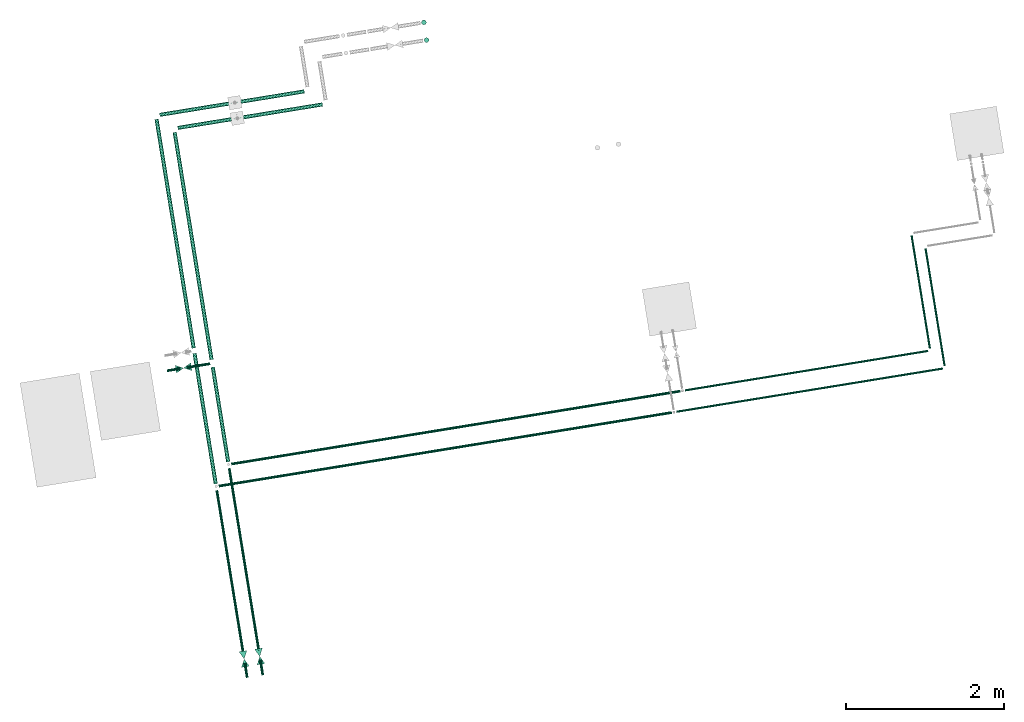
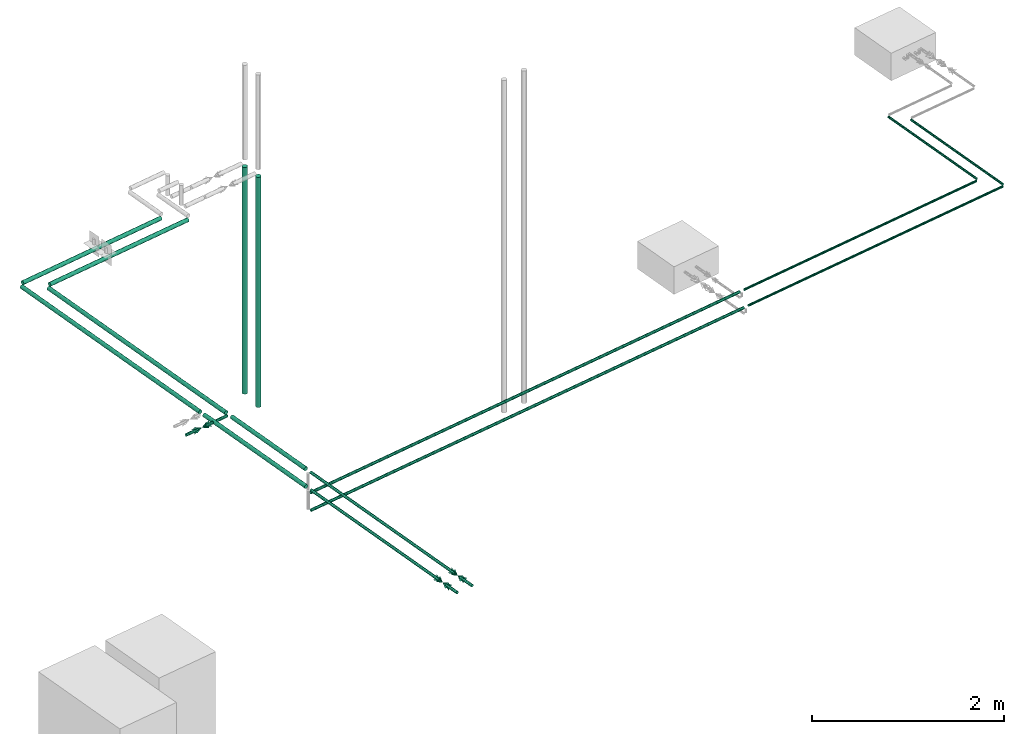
# One storey, part 1 of 8: 20 flow segments, 3 flow controllers.
"""IFC2X3 building model written with IfcOpenShell, lengths in millimetres."""

from ifc_helpers import new_model, entity, si_unit, converted_unit, derived_unit, direction, frame, frame_2d, origin, origin_with_axes, origin_2d_with_axis, place, context, subcontext, project, spatial, polyline, circle, outline, extrude, source, transform, mapped, material, type_object, element, save


model = new_model("IFC2X3")

# Units and contexts
model_context = context("Model", 3, precision=0.01, world=origin(), true_north=direction((6.12323399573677e-17, 1.0)))
plan_context = context("Plan", 3, precision=1e-05, world=origin_with_axes())
body_context = subcontext(model_context, "Body", "Model", "MODEL_VIEW")
ifc_project = project(units=[converted_unit("PLANEANGLEUNIT", "DEGREE", entity("IfcPositiveLengthMeasure", 0.0174532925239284), si_unit("PLANEANGLEUNIT", "RADIAN"), dimensions=[0, 0, 0, 0, 0, 0, 0]), si_unit("AREAUNIT", "SQUARE_METRE"), si_unit("LENGTHUNIT", "METRE", prefix="MILLI"), si_unit("MASSUNIT", "GRAM", prefix="KILO"), si_unit("POWERUNIT", "WATT"), si_unit("PRESSUREUNIT", "PASCAL", prefix="KILO"), si_unit("FORCEUNIT", "NEWTON", prefix="KILO"), si_unit("ELECTRICVOLTAGEUNIT", "VOLT"), si_unit("ELECTRICCURRENTUNIT", "AMPERE"), si_unit("THERMODYNAMICTEMPERATUREUNIT", "DEGREE_CELSIUS"), si_unit("TIMEUNIT", "SECOND"), si_unit("VOLUMEUNIT", "CUBIC_METRE"), derived_unit("LINEARVELOCITYUNIT", [(si_unit("LENGTHUNIT", "METRE"), 1), (si_unit("TIMEUNIT", "SECOND"), -1)]), derived_unit("VOLUMETRICFLOWRATEUNIT", [(si_unit("VOLUMEUNIT", "CUBIC_METRE"), 1), (si_unit("TIMEUNIT", "SECOND"), -1)]), derived_unit("THERMALTRANSMITTANCEUNIT", [(si_unit("POWERUNIT", "WATT"), 1), (si_unit("THERMODYNAMICTEMPERATUREUNIT", "KELVIN"), -1), (si_unit("AREAUNIT", "SQUARE_METRE"), -1)]), derived_unit("SOUNDPRESSUREUNIT", [(si_unit("PRESSUREUNIT", "PASCAL"), 1)])], contexts=[model_context, plan_context])

# Site, building, storey
site_placement = place(None, frame((-0.00071070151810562, 0.00438415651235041, 0.0), z_axis=(0.0, 0.0, 1.0), x_axis=(-0.160236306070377, 0.987078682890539, 0.0)))
site = spatial("IfcSite", under=ifc_project, at=site_placement, Name="Default", CompositionType="ELEMENT")
building_placement = place(site_placement, origin_with_axes())
building = spatial("IfcBuilding", under=site, at=building_placement, CompositionType="ELEMENT")
storey_placement = place(building_placement, frame((0.0, 0.0, 50999.9999999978), z_axis=(0.0, 0.0, 1.0), x_axis=(1.0, 0.0, 0.0)))
storey = spatial("IfcBuildingStorey", under=building, at=storey_placement, Name="Nivå D", CompositionType="ELEMENT", Elevation=50999.9999999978)

# Flow controllers
ifc_material = material(Name="2d_hide")
valve_type_1 = type_object("IfcValveType", Name="REGULERINGSVENTIL - MANUELL--SV01T:REGULERINGSVENTIL - MANUELL-25-SV001T", PredefinedType="NOTDEFINED", material=ifc_material)
shared_shape_1 = source(origin(), body_context, "Body", "SweptSolid", [
    extrude(outline(polyline([(-52.1749194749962, -29.8142396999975), (59.6284793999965, -29.8142396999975), (-7.4535599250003, 59.628479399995), (-52.1749194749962, -29.8142396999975)])), frame((66.6666666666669, 0.0, -0.1), z_axis=(0.0, 0.0, 1.0), x_axis=(-0.894427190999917, -0.447213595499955, 0.0)), (0.0, 0.0, 1.0), 0.2),
    extrude(outline(polyline([(-50.0, -33.3333333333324), (50.0, -33.3333333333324), (0.0, 66.6666666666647), (-50.0, -33.3333333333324)])), frame((-66.6666666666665, 0.0, -0.1), z_axis=(0.0, 0.0, 1.0), x_axis=(0.0, -1.0, 0.0)), (0.0, 0.0, 1.0), 0.2),
    extrude(outline(polyline([(-52.1749194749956, -29.8142396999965), (59.6284793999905, -29.8142396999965), (-7.45355992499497, 59.628479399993), (-52.1749194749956, -29.8142396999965)])), frame((66.66666666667, -0.1, 0.0), z_axis=(0.0, 1.0, 0.0), x_axis=(-0.894427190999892, 0.0, 0.447213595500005)), (0.0, 0.0, 1.0), 0.2),
    extrude(outline(polyline([(-50.0, -33.3333333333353), (50.0, -33.3333333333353), (0.0, 66.6666666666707), (-50.0, -33.3333333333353)])), frame((-66.6666666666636, -0.1, 0.0), z_axis=(0.0, 1.0, 0.0), x_axis=(0.0, 0.0, 1.0)), (0.0, 0.0, 1.0), 0.2),
])
flow_controller_placement = place(storey_placement, frame((770157.619644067, -591139.456821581, 3300.0), z_axis=(0.0, 0.0, 1.0), x_axis=(1.0, 0.0, 0.0)))
element("IfcFlowController", 1, at=flow_controller_placement, inside=storey, type_object=valve_type_1, material=ifc_material, Name="REGULERINGSVENTIL - MANUELL--SV01T:REGULERINGSVENTIL - MANUELL-25-SV001T", ObjectType="REGULERINGSVENTIL - MANUELL--SV01T:REGULERINGSVENTIL - MANUELL-25-SV001T", context=body_context, shape_type="MappedRepresentation", body=[
    mapped(shared_shape_1, transform((0.0, 0.0, 0.0), scale=1.0)),
])
valve_type_2 = type_object("IfcValveType", Name="STENGEVENTIL - MANUELL--SM06T:STENGEVENTIL - MANUELL-25-SM006T", PredefinedType="NOTDEFINED", material=ifc_material)
shared_shape_2 = source(origin(), body_context, "Body", "SweptSolid", [
    extrude(outline(polyline([(-52.1749194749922, -29.8142396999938), (59.6284794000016, -29.8142396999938), (-7.4535599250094, 59.6284793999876), (-52.1749194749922, -29.8142396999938)])), frame((66.6666666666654, 0.0, -0.1), z_axis=(0.0, 0.0, 1.0), x_axis=(-0.894427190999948, -0.447213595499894, 0.0)), (0.0, 0.0, 1.0), 0.2),
    extrude(outline(polyline([(-50.0, -33.3333333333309), (50.0, -33.3333333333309), (0.0, 66.6666666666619), (-50.0, -33.3333333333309)])), frame((-66.666666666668, 0.0, -0.1), z_axis=(0.0, 0.0, 1.0), x_axis=(0.0, -1.0, 0.0)), (0.0, 0.0, 1.0), 0.2),
    extrude(outline(polyline([(-52.1749194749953, -29.8142396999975), (59.628479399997, -29.8142396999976), (-7.45355992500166, 59.6284793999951), (-52.1749194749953, -29.8142396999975)])), frame((66.6666666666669, -0.1, 0.0), z_axis=(0.0, 1.0, 0.0), x_axis=(-0.894427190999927, 0.0, 0.447213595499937)), (0.0, 0.0, 1.0), 0.2),
    extrude(outline(polyline([(-50.0, -33.3333333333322), (50.0, -33.3333333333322), (0.0, 66.6666666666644), (-50.0, -33.3333333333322)])), frame((-66.6666666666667, -0.1, 0.0), z_axis=(0.0, 1.0, 0.0), x_axis=(0.0, 0.0, 1.0)), (0.0, 0.0, 1.0), 0.2),
])
for number, where, z_axis, x_axis in (
    (2, (770157.619644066, -591339.456821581, 3300.0), (0.0, 0.0, 1.0), (1.0, 0.0, 0.0)),
    (3, (773917.619644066, -590972.581821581, 3300.0), (0.0, 0.0, 1.0), (0.0, 1.0, 0.0)),
):
    element("IfcFlowController", number, at=place(storey_placement, frame(where, z_axis=z_axis, x_axis=x_axis)), inside=storey, type_object=valve_type_2, material=ifc_material, Name="STENGEVENTIL - MANUELL--SM06T:STENGEVENTIL - MANUELL-25-SM006T", ObjectType="STENGEVENTIL - MANUELL--SM06T:STENGEVENTIL - MANUELL-25-SM006T", context=body_context, shape_type="MappedRepresentation", body=[
        mapped(shared_shape_2, transform((0.0, 0.0, 0.0), scale=1.0)),
    ])

# Flow segments
pipe_segment_type = type_object("IfcPipeSegmentType", Name="Pipe Types:Stålrør syrefast AISI 316", PredefinedType="NOTDEFINED")
flow_segment_1_placement = place(storey_placement, origin_with_axes())
element("IfcFlowSegment", 4, at=flow_segment_1_placement, inside=storey, type_object=pipe_segment_type, Name="Pipe Types:Stålrør syrefast AISI 316", ObjectType="Pipe Types:Stålrør syrefast AISI 316", context=body_context, shape_type="SweptSolid", body=[
    extrude(circle(Radius=30.1499996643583, at=origin_2d_with_axis()), frame((777524.586788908, -594676.080003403, -19.9999999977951)), (0.0, 0.0, 1.0), 2921.59999999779),
])
flow_segment_2_placement = place(storey_placement, origin_with_axes())
element("IfcFlowSegment", 5, at=flow_segment_2_placement, inside=storey, type_object=pipe_segment_type, Name="Pipe Types:Stålrør syrefast AISI 316", ObjectType="Pipe Types:Stålrør syrefast AISI 316", context=body_context, shape_type="SweptSolid", body=[
    extrude(circle(Radius=30.1499996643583, at=origin_2d_with_axis()), frame((777750.860958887, -594678.826649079, 24.4000000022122)), (0.0, 0.0, 1.0), 2877.19999999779),
])
flow_segment_3_placement = place(storey_placement, origin_with_axes())
element("IfcFlowSegment", 6, at=flow_segment_3_placement, inside=storey, type_object=pipe_segment_type, Name="Pipe Types:Stålrør syrefast AISI 316", ObjectType="Pipe Types:Stålrør syrefast AISI 316", context=body_context, shape_type="SweptSolid", body=[
    extrude(circle(Radius=24.1499996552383, at=origin_2d_with_axis()), frame((776930.860958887, -593243.742354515, 3300.0), z_axis=(0.0, 1.0, 0.0), x_axis=(1.0, 0.0, 0.0)), (0.0, 0.0, 1.0), 1855.88553293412),
])
flow_segment_4_placement = place(storey_placement, origin_with_axes())
element("IfcFlowSegment", 7, at=flow_segment_4_placement, inside=storey, type_object=pipe_segment_type, Name="Pipe Types:Stålrør syrefast AISI 316", ObjectType="Pipe Types:Stålrør syrefast AISI 316", context=body_context, shape_type="SweptSolid", body=[
    extrude(circle(Radius=16.8500004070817, at=frame_2d((0.0, -8.66293703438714e-12), x_axis=(1.0, 0.0))), frame((769916.899644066, -591339.456821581, 3300.0), z_axis=(1.0, 0.0, 0.0), x_axis=(0.0, 1.0, 0.0)), (0.0, 0.0, 1.0), 194.720000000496),
])
flow_segment_5_placement = place(storey_placement, origin_with_axes())
element("IfcFlowSegment", 8, at=flow_segment_5_placement, inside=storey, type_object=pipe_segment_type, Name="Pipe Types:Stålrør syrefast AISI 316", ObjectType="Pipe Types:Stålrør syrefast AISI 316", context=body_context, shape_type="SweptSolid", body=[
    extrude(circle(Radius=24.1499996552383, at=origin_2d_with_axis()), frame((777130.860958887, -593043.742355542, 3300.0), z_axis=(0.0, 1.0, 0.0), x_axis=(1.0, 0.0, 0.0)), (0.0, 0.0, 1.0), 1855.88553396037),
])
flow_segment_6_placement = place(storey_placement, origin_with_axes())
element("IfcFlowSegment", 9, at=flow_segment_6_placement, inside=storey, type_object=pipe_segment_type, Name="Pipe Types:Stålrør syrefast AISI 316", ObjectType="Pipe Types:Stålrør syrefast AISI 316", context=body_context, shape_type="SweptSolid", body=[
    extrude(circle(Radius=16.8500004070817, at=frame_2d((0.0, -8.66293703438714e-12), x_axis=(1.0, 0.0))), frame((769916.899644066, -591139.456821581, 3300.0), z_axis=(1.0, 0.0, 0.0), x_axis=(0.0, 1.0, 0.0)), (0.0, 0.0, 1.0), 185.720000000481),
])
flow_segment_7_placement = place(storey_placement, origin_with_axes())
element("IfcFlowSegment", 10, at=flow_segment_7_placement, inside=storey, type_object=pipe_segment_type, Name="Pipe Types:Stålrør syrefast AISI 316", ObjectType="Pipe Types:Stålrør syrefast AISI 316", context=body_context, shape_type="SweptSolid", body=[
    extrude(circle(Radius=24.1499996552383, at=origin_2d_with_axis()), frame((772404.499644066, -591139.456821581, 3300.0), z_axis=(1.0, 0.0, 0.0), x_axis=(0.0, 1.0, 0.0)), (0.0, 0.0, 1.0), 1674.11924460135),
])
flow_segment_8_placement = place(storey_placement, origin_with_axes())
element("IfcFlowSegment", 11, at=flow_segment_8_placement, inside=storey, type_object=pipe_segment_type, Name="Pipe Types:Stålrør syrefast AISI 316", ObjectType="Pipe Types:Stålrør syrefast AISI 316", context=body_context, shape_type="SweptSolid", body=[
    extrude(circle(Radius=24.1499996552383, at=origin_2d_with_axis()), frame((772654.537804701, -591339.456821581, 3300.0), z_axis=(1.0, 0.0, 0.0), x_axis=(0.0, 1.0, 0.0)), (0.0, 0.0, 1.0), 1214.68183936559),
])
flow_segment_9_placement = place(storey_placement, origin_with_axes())
element("IfcFlowSegment", 12, at=flow_segment_9_placement, inside=storey, type_object=pipe_segment_type, Name="Pipe Types:Stålrør syrefast AISI 316", ObjectType="Pipe Types:Stålrør syrefast AISI 316", context=body_context, shape_type="SweptSolid", body=[
    extrude(circle(Radius=16.8500004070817, at=frame_2d((0.0, -8.66293703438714e-12), x_axis=(1.0, 0.0))), frame((772370.699644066, -596986.247041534, 3000.0), z_axis=(0.0, 1.0, 0.0), x_axis=(-1.0, 0.0, 0.0)), (0.0, 0.0, 1.0), 5812.99021995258),
])
flow_segment_10_placement = place(storey_placement, origin_with_axes())
element("IfcFlowSegment", 13, at=flow_segment_10_placement, inside=storey, type_object=pipe_segment_type, Name="Pipe Types:Stålrør syrefast AISI 316", ObjectType="Pipe Types:Stålrør syrefast AISI 316", context=body_context, shape_type="SweptSolid", body=[
    extrude(circle(Radius=16.8500004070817, at=frame_2d((0.0, -8.66293703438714e-12), x_axis=(1.0, 0.0))), frame((772620.737804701, -597136.247041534, 3000.0), z_axis=(0.0, 1.0, 0.0), x_axis=(-1.0, 0.0, 0.0)), (0.0, 0.0, 1.0), 5762.99021995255),
])
flow_segment_11_placement = place(storey_placement, origin_with_axes())
element("IfcFlowSegment", 14, at=flow_segment_11_placement, inside=storey, type_object=pipe_segment_type, Name="Pipe Types:Stålrør syrefast AISI 316", ObjectType="Pipe Types:Stålrør syrefast AISI 316", context=body_context, shape_type="SweptSolid", body=[
    extrude(circle(Radius=13.3500004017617, at=origin_2d_with_axis()), frame((772620.737804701, -600315.342355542, 3000.0), z_axis=(0.0, 1.0, 0.0), x_axis=(1.0, 0.0, 0.0)), (0.0, 0.0, 1.0), 3118.49531400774),
])
flow_segment_12_placement = place(storey_placement, origin_with_axes())
element("IfcFlowSegment", 15, at=flow_segment_12_placement, inside=storey, type_object=pipe_segment_type, Name="Pipe Types:Stålrør syrefast AISI 316", ObjectType="Pipe Types:Stålrør syrefast AISI 316", context=body_context, shape_type="SweptSolid", body=[
    extrude(circle(Radius=13.3500004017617, at=origin_2d_with_axis()), frame((772647.537804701, -600342.142355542, 3000.0), z_axis=(1.0, 0.0, 0.0), x_axis=(0.0, -1.0, 0.0)), (0.0, 0.0, 1.0), 1451.40000000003),
])
flow_segment_13_placement = place(storey_placement, origin_with_axes())
element("IfcFlowSegment", 16, at=flow_segment_13_placement, inside=storey, type_object=pipe_segment_type, Name="Pipe Types:Stålrør syrefast AISI 316", ObjectType="Pipe Types:Stålrør syrefast AISI 316", context=body_context, shape_type="SweptSolid", body=[
    extrude(circle(Radius=13.3500004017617, at=origin_2d_with_axis()), frame((772370.699644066, -600463.542355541, 3000.0), z_axis=(0.0, 1.0, 0.0), x_axis=(1.0, 0.0, 0.0)), (0.0, 0.0, 1.0), 3416.69531400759),
])
flow_segment_14_placement = place(storey_placement, origin_with_axes())
element("IfcFlowSegment", 17, at=flow_segment_14_placement, inside=storey, type_object=pipe_segment_type, Name="Pipe Types:Stålrør syrefast AISI 316", ObjectType="Pipe Types:Stålrør syrefast AISI 316", context=body_context, shape_type="SweptSolid", body=[
    extrude(circle(Radius=13.3500004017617, at=origin_2d_with_axis()), frame((772397.499644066, -600490.342355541, 3000.0), z_axis=(1.0, 0.0, 0.0), x_axis=(0.0, -1.0, 0.0)), (0.0, 0.0, 1.0), 1511.40000000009),
])
flow_segment_15_placement = place(storey_placement, origin_with_axes())
element("IfcFlowSegment", 18, at=flow_segment_15_placement, inside=storey, type_object=pipe_segment_type, Name="Pipe Types:Stålrør syrefast AISI 316", ObjectType="Pipe Types:Stålrør syrefast AISI 316", context=body_context, shape_type="SweptSolid", body=[
    extrude(circle(Radius=16.8500004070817, at=frame_2d((0.0, -8.66293703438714e-12), x_axis=(1.0, 0.0))), frame((770212.619644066, -591139.456821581, 3300.0), z_axis=(1.0, 0.0, 0.0), x_axis=(0.0, 1.0, 0.0)), (0.0, 0.0, 1.0), 2109.67999999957),
])
flow_segment_16_placement = place(storey_placement, origin_with_axes())
element("IfcFlowSegment", 19, at=flow_segment_16_placement, inside=storey, type_object=pipe_segment_type, Name="Pipe Types:Stålrør syrefast AISI 316", ObjectType="Pipe Types:Stålrør syrefast AISI 316", context=body_context, shape_type="SweptSolid", body=[
    extrude(circle(Radius=16.8500004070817, at=frame_2d((0.0, -8.66293703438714e-12), x_axis=(1.0, 0.0))), frame((770203.619644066, -591339.456821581, 3300.0), z_axis=(1.0, 0.0, 0.0), x_axis=(0.0, 1.0, 0.0)), (0.0, 0.0, 1.0), 2368.71816063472),
])
flow_segment_17_placement = place(storey_placement, origin_with_axes())
element("IfcFlowSegment", 20, at=flow_segment_17_placement, inside=storey, type_object=pipe_segment_type, Name="Pipe Types:Stålrør syrefast AISI 316", ObjectType="Pipe Types:Stålrør syrefast AISI 316", context=body_context, shape_type="SweptSolid", body=[
    extrude(circle(Radius=24.1499996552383, at=origin_2d_with_axis()), frame((774146.218888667, -591139.456821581, 3300.0), z_axis=(1.0, 0.0, 0.0), x_axis=(0.0, 1.0, 0.0)), (0.0, 0.0, 1.0), 2936.24207021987),
])
flow_segment_18_placement = place(storey_placement, origin_with_axes())
element("IfcFlowSegment", 21, at=flow_segment_18_placement, inside=storey, type_object=pipe_segment_type, Name="Pipe Types:Stålrør syrefast AISI 316", ObjectType="Pipe Types:Stålrør syrefast AISI 316", context=body_context, shape_type="SweptSolid", body=[
    extrude(circle(Radius=16.8500004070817, at=origin_2d_with_axis()), frame((773917.619644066, -590926.581821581, 3300.0), z_axis=(0.0, 1.0, 0.0), x_axis=(1.0, 0.0, 0.0)), (0.0, 0.0, 1.0), 167.124999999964),
])
flow_segment_19_placement = place(storey_placement, origin_with_axes())
element("IfcFlowSegment", 22, at=flow_segment_19_placement, inside=storey, type_object=pipe_segment_type, Name="Pipe Types:Stålrør syrefast AISI 316", ObjectType="Pipe Types:Stålrør syrefast AISI 316", context=body_context, shape_type="SweptSolid", body=[
    extrude(circle(Radius=24.1499996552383, at=origin_2d_with_axis()), frame((773966.019644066, -591339.456821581, 3300.0), z_axis=(1.0, 0.0, 0.0), x_axis=(0.0, 1.0, 0.0)), (0.0, 0.0, 1.0), 2916.44131482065),
])
flow_segment_20_placement = place(storey_placement, origin_with_axes())
element("IfcFlowSegment", 23, at=flow_segment_20_placement, inside=storey, type_object=pipe_segment_type, Name="Pipe Types:Stålrør syrefast AISI 316", ObjectType="Pipe Types:Stålrør syrefast AISI 316", context=body_context, shape_type="SweptSolid", body=[
    extrude(circle(Radius=16.8500004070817, at=origin_2d_with_axis()), frame((773917.619644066, -591314.106821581, 3300.0), z_axis=(0.0, 1.0, 0.0), x_axis=(1.0, 0.0, 0.0)), (0.0, 0.0, 1.0), 295.52499999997),
])

save(model, "model.ifc")
